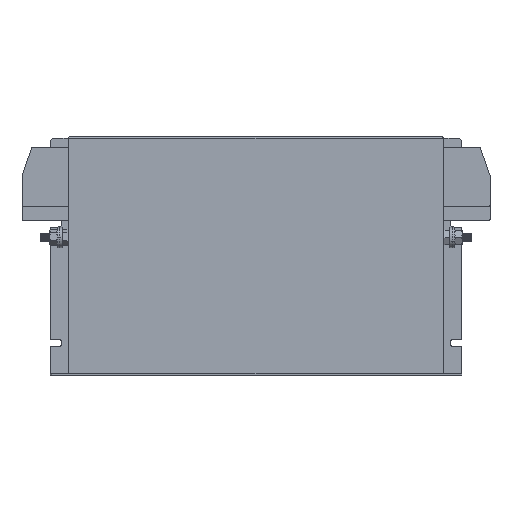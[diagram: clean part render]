
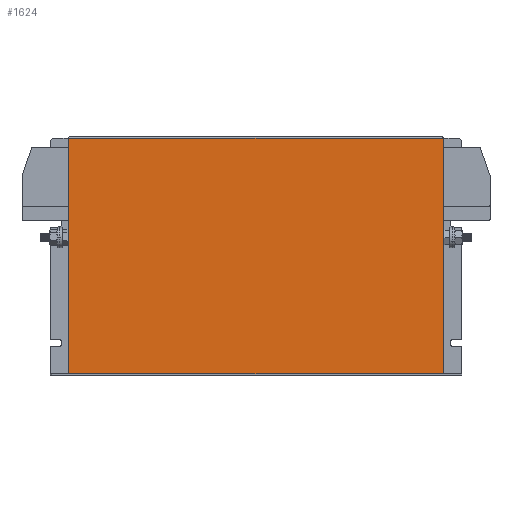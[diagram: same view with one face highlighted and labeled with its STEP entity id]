
A CAD part, top view. The second image highlights one B-rep face of the part: STEP entity #1624.
In plain terms, the highlighted planar face has unit normal (0, 0, 1).
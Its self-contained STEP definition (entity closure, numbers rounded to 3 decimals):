
#16 = VERTEX_POINT ( 'NONE', #1786 ) ;
#55 = EDGE_CURVE ( 'NONE', #1318, #2102, #3440, .T. ) ;
#219 = VECTOR ( 'NONE', #6331, 1000. ) ;
#428 = VERTEX_POINT ( 'NONE', #2805 ) ;
#698 = ORIENTED_EDGE ( 'NONE', *, *, #55, .T. ) ;
#715 = VECTOR ( 'NONE', #8157, 1000. ) ;
#870 = EDGE_CURVE ( 'NONE', #428, #16, #9024, .T. ) ;
#1137 = DIRECTION ( 'NONE',  ( -1., 0., 0. ) ) ;
#1235 = CARTESIAN_POINT ( 'NONE',  ( 17., 218.5, 1.5 ) ) ;
#1318 = VERTEX_POINT ( 'NONE', #4445 ) ;
#1576 = DIRECTION ( 'NONE',  ( 0., -1., 0. ) ) ;
#1624 = ADVANCED_FACE ( 'NONE', ( #6195 ), #8779, .F. ) ;
#1776 = ORIENTED_EDGE ( 'NONE', *, *, #6532, .T. ) ;
#1786 = CARTESIAN_POINT ( 'NONE',  ( 362., 1.5, 1.5 ) ) ;
#1893 = ORIENTED_EDGE ( 'NONE', *, *, #870, .T. ) ;
#2102 = VERTEX_POINT ( 'NONE', #4082 ) ;
#2477 = ORIENTED_EDGE ( 'NONE', *, *, #7164, .F. ) ;
#2578 = LINE ( 'NONE', #2930, #4041 ) ;
#2805 = CARTESIAN_POINT ( 'NONE',  ( 17., 1.5, 1.5 ) ) ;
#2930 = CARTESIAN_POINT ( 'NONE',  ( 17., 220., 1.5 ) ) ;
#3440 = LINE ( 'NONE', #1235, #219 ) ;
#4041 = VECTOR ( 'NONE', #1576, 1000. ) ;
#4082 = CARTESIAN_POINT ( 'NONE',  ( 17., 218.5, 1.5 ) ) ;
#4445 = CARTESIAN_POINT ( 'NONE',  ( 362., 218.5, 1.5 ) ) ;
#4624 = DIRECTION ( 'NONE',  ( 1., 0., 0. ) ) ;
#5130 = VECTOR ( 'NONE', #4624, 1000. ) ;
#6195 = FACE_OUTER_BOUND ( 'NONE', #7385, .T. ) ;
#6331 = DIRECTION ( 'NONE',  ( -1., 0., 0. ) ) ;
#6520 = LINE ( 'NONE', #8898, #715 ) ;
#6532 = EDGE_CURVE ( 'NONE', #2102, #428, #2578, .T. ) ;
#6747 = AXIS2_PLACEMENT_3D ( 'NONE', #6990, #6896, #1137 ) ;
#6780 = CARTESIAN_POINT ( 'NONE',  ( 17., 1.5, 1.5 ) ) ;
#6896 = DIRECTION ( 'NONE',  ( 0., 0., -1. ) ) ;
#6990 = CARTESIAN_POINT ( 'NONE',  ( 17., 220., 1.5 ) ) ;
#7164 = EDGE_CURVE ( 'NONE', #1318, #16, #6520, .T. ) ;
#7385 = EDGE_LOOP ( 'NONE', ( #2477, #698, #1776, #1893 ) ) ;
#8157 = DIRECTION ( 'NONE',  ( 0., -1., 0. ) ) ;
#8779 = PLANE ( 'NONE',  #6747 ) ;
#8898 = CARTESIAN_POINT ( 'NONE',  ( 362., 220., 1.5 ) ) ;
#9024 = LINE ( 'NONE', #6780, #5130 ) ;
